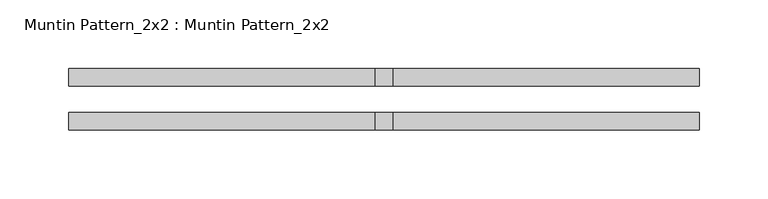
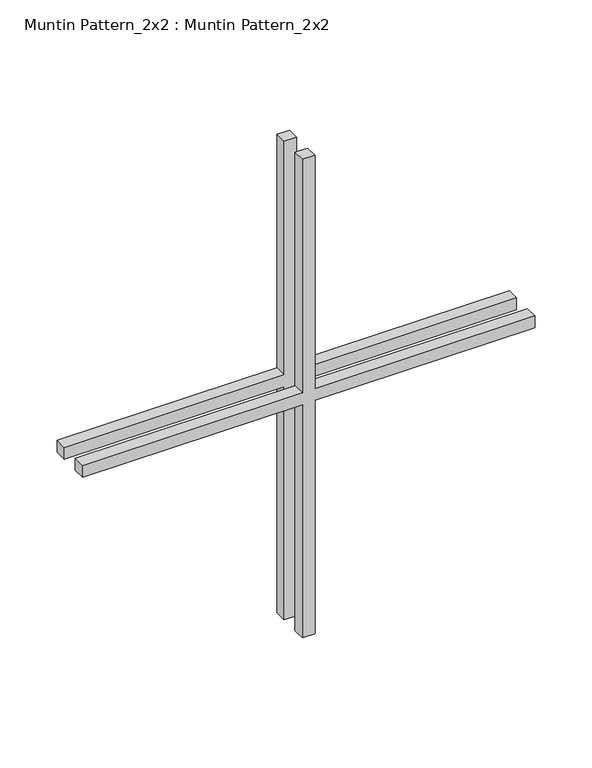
"""IFC4 building model written with IfcOpenShell, lengths in millimetres: proxy geometry, Muntin Pattern_2x2 : Muntin Pattern_2x2."""

from ifc_helpers import new_model, si_unit, frame, origin, place, context, project, spatial, polyline, outline, extrude, source, transform, mapped, element, save


def muntin_pattern_2x2_muntin_pattern_2x2_3440c8d2(model_context):
    return source(origin(), model_context, "Body", "SweptSolid", [
        extrude(outline(polyline([(261.9375, -6.35), (261.9375, -228.6), (249.2375, -228.6), (249.2375, -6.35), (0.0, -6.35), (0.0, 6.35), (249.2375, 6.35), (249.2375, 228.6), (261.9375, 228.6), (261.9375, 6.35), (511.175, 6.35), (511.175, -6.35), (261.9375, -6.35)])), frame((0.0, 9.525, 0.0), z_axis=(0.0, 1.0, 0.0), x_axis=(0.0, 0.0, 1.0)), (0.0, 0.0, 1.0), 12.7),
        extrude(outline(polyline([(261.9375, -6.35), (261.9375, -228.6), (249.2375, -228.6), (249.2375, -6.35), (0.0, -6.35), (0.0, 6.35), (249.2375, 6.35), (249.2375, 228.6), (261.9375, 228.6), (261.9375, 6.35), (511.175, 6.35), (511.175, -6.35), (261.9375, -6.35)])), frame((0.0, -22.225, 0.0), z_axis=(0.0, 1.0, 0.0), x_axis=(0.0, 0.0, 1.0)), (0.0, 0.0, 1.0), 12.7),
    ])


if __name__ == "__main__":
    model = new_model("IFC4")
    model_context = context("Model", 3, world=origin())
    ifc_project = project(units=[si_unit("LENGTHUNIT", "METRE", prefix="MILLI")], contexts=[model_context])
    site = spatial("IfcSite", under=ifc_project)
    building = spatial("IfcBuilding", under=site)
    placement = place(None, origin())
    muntin_pattern_2x2_muntin_pattern_2x2_shape = muntin_pattern_2x2_muntin_pattern_2x2_3440c8d2(model_context)
    element("IfcBuildingElementProxy", 1, Name="Muntin Pattern_2x2 : Muntin Pattern_2x2", ObjectType="Muntin Pattern_2x2 : Muntin Pattern_2x2", at=placement, inside=building, context=model_context, shape_type="MappedRepresentation", body=[
        mapped(muntin_pattern_2x2_muntin_pattern_2x2_shape, transform((0.0, 0.0, 0.0), x_axis=(1.0, 0.0, 0.0), y_axis=(0.0, 1.0, 0.0), z_axis=(0.0, 0.0, 1.0))),
    ])
    save(model, "model.ifc")
